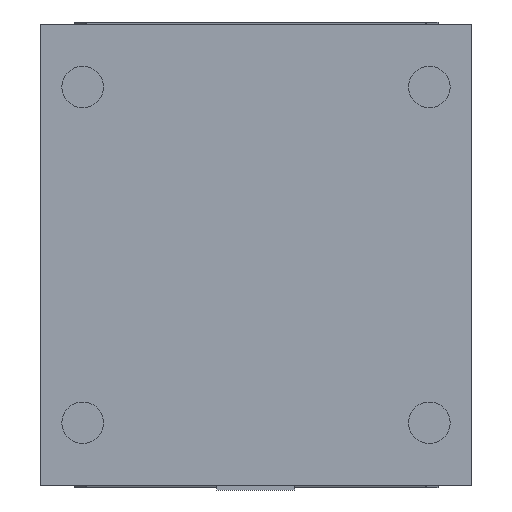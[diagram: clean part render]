
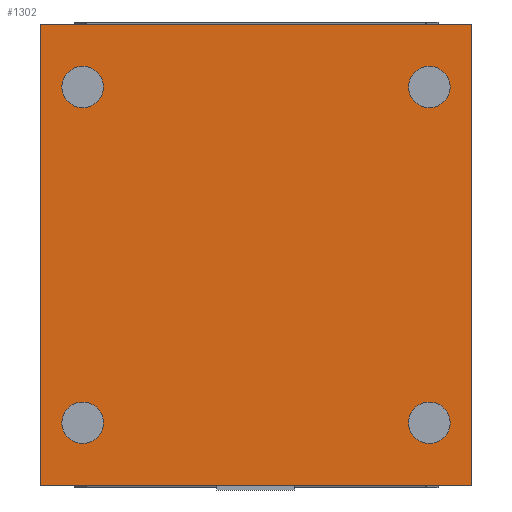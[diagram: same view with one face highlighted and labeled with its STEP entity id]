
A CAD part, front view. The second image highlights one B-rep face of the part: STEP entity #1302.
In plain terms, the highlighted planar face has unit normal (0, -1, 0).
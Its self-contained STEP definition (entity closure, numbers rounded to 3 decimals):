
#42=FACE_BOUND('',#235,.T.);
#43=FACE_BOUND('',#236,.T.);
#44=FACE_BOUND('',#237,.T.);
#45=FACE_BOUND('',#238,.T.);
#88=PLANE('',#1434);
#154=FACE_OUTER_BOUND('',#234,.T.);
#234=EDGE_LOOP('',(#1113,#1114,#1115,#1116));
#235=EDGE_LOOP('',(#1117));
#236=EDGE_LOOP('',(#1118));
#237=EDGE_LOOP('',(#1119));
#238=EDGE_LOOP('',(#1120));
#358=LINE('',#2108,#496);
#359=LINE('',#2110,#497);
#360=LINE('',#2112,#498);
#361=LINE('',#2113,#499);
#496=VECTOR('',#1724,10.);
#497=VECTOR('',#1725,10.);
#498=VECTOR('',#1726,10.);
#499=VECTOR('',#1727,10.);
#565=CIRCLE('',#1435,9.59);
#566=CIRCLE('',#1436,9.59);
#567=CIRCLE('',#1437,9.59);
#568=CIRCLE('',#1438,9.59);
#657=VERTEX_POINT('',#2106);
#658=VERTEX_POINT('',#2107);
#659=VERTEX_POINT('',#2109);
#660=VERTEX_POINT('',#2111);
#661=VERTEX_POINT('',#2114);
#662=VERTEX_POINT('',#2116);
#663=VERTEX_POINT('',#2118);
#664=VERTEX_POINT('',#2120);
#816=EDGE_CURVE('',#657,#658,#358,.T.);
#817=EDGE_CURVE('',#658,#659,#359,.T.);
#818=EDGE_CURVE('',#659,#660,#360,.T.);
#819=EDGE_CURVE('',#660,#657,#361,.T.);
#820=EDGE_CURVE('',#661,#661,#565,.T.);
#821=EDGE_CURVE('',#662,#662,#566,.T.);
#822=EDGE_CURVE('',#663,#663,#567,.T.);
#823=EDGE_CURVE('',#664,#664,#568,.T.);
#1113=ORIENTED_EDGE('',*,*,#816,.T.);
#1114=ORIENTED_EDGE('',*,*,#817,.T.);
#1115=ORIENTED_EDGE('',*,*,#818,.T.);
#1116=ORIENTED_EDGE('',*,*,#819,.T.);
#1117=ORIENTED_EDGE('',*,*,#820,.F.);
#1118=ORIENTED_EDGE('',*,*,#821,.F.);
#1119=ORIENTED_EDGE('',*,*,#822,.F.);
#1120=ORIENTED_EDGE('',*,*,#823,.F.);
#1302=ADVANCED_FACE('',(#154,#42,#43,#44,#45),#88,.T.);
#1434=AXIS2_PLACEMENT_3D('',#2105,#1722,#1723);
#1435=AXIS2_PLACEMENT_3D('',#2115,#1728,#1729);
#1436=AXIS2_PLACEMENT_3D('',#2117,#1730,#1731);
#1437=AXIS2_PLACEMENT_3D('',#2119,#1732,#1733);
#1438=AXIS2_PLACEMENT_3D('',#2121,#1734,#1735);
#1722=DIRECTION('center_axis',(0.,-1.,0.));
#1723=DIRECTION('ref_axis',(1.,0.,0.));
#1724=DIRECTION('',(-1.,0.,0.));
#1725=DIRECTION('',(0.,0.,-1.));
#1726=DIRECTION('',(1.,0.,0.));
#1727=DIRECTION('',(0.,0.,1.));
#1728=DIRECTION('center_axis',(0.,-1.,0.));
#1729=DIRECTION('ref_axis',(1.,0.,0.));
#1730=DIRECTION('center_axis',(0.,-1.,0.));
#1731=DIRECTION('ref_axis',(1.,0.,0.));
#1732=DIRECTION('center_axis',(0.,-1.,0.));
#1733=DIRECTION('ref_axis',(1.,0.,0.));
#1734=DIRECTION('center_axis',(0.,-1.,0.));
#1735=DIRECTION('ref_axis',(1.,0.,0.));
#2105=CARTESIAN_POINT('Origin',(0.,-9.239,0.));
#2106=CARTESIAN_POINT('',(99.5,-9.239,106.5));
#2107=CARTESIAN_POINT('',(-99.5,-9.239,106.5));
#2108=CARTESIAN_POINT('',(0.,-9.239,106.5));
#2109=CARTESIAN_POINT('',(-99.5,-9.239,-106.5));
#2110=CARTESIAN_POINT('',(-99.5,-9.239,0.));
#2111=CARTESIAN_POINT('',(99.5,-9.239,-106.5));
#2112=CARTESIAN_POINT('',(0.,-9.239,-106.5));
#2113=CARTESIAN_POINT('',(99.5,-9.239,0.));
#2114=CARTESIAN_POINT('',(-89.59,-9.239,77.5));
#2115=CARTESIAN_POINT('Origin',(-80.,-9.239,77.5));
#2116=CARTESIAN_POINT('',(70.41,-9.239,77.5));
#2117=CARTESIAN_POINT('Origin',(80.,-9.239,77.5));
#2118=CARTESIAN_POINT('',(-89.59,-9.239,-77.5));
#2119=CARTESIAN_POINT('Origin',(-80.,-9.239,-77.5));
#2120=CARTESIAN_POINT('',(70.41,-9.239,-77.5));
#2121=CARTESIAN_POINT('Origin',(80.,-9.239,-77.5));
